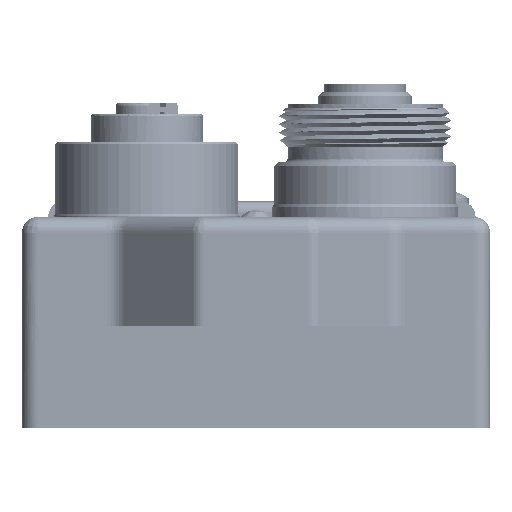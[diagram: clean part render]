
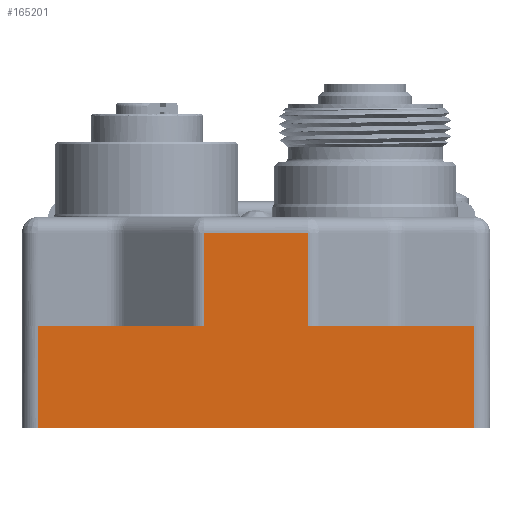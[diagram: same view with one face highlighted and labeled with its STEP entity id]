
A CAD part, left-side view. The second image highlights one B-rep face of the part: STEP entity #165201.
In plain terms, the highlighted planar face has unit normal (-1, 0, 0).
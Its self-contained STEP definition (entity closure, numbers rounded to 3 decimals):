
#4165 = CARTESIAN_POINT ( 'NONE',  ( -96.6, 2.224, 25. ) ) ;
#16935 = B_SPLINE_CURVE_WITH_KNOTS ( 'NONE', 3,
 ( #87503, #241974, #64495, #292724 ),
 .UNSPECIFIED., .F., .F.,
 ( 4, 4 ),
 ( 0., 1. ),
 .UNSPECIFIED. ) ;
#18579 = CARTESIAN_POINT ( 'NONE',  ( -96.6, -20.891, 13. ) ) ;
#20298 = CARTESIAN_POINT ( 'NONE',  ( -96.6, -28., 0. ) ) ;
#20524 = CARTESIAN_POINT ( 'NONE',  ( -96.6, -28., 13. ) ) ;
#20704 = B_SPLINE_CURVE_WITH_KNOTS ( 'NONE', 3,
 ( #196014, #175037, #86284, #20298 ),
 .UNSPECIFIED., .F., .F.,
 ( 4, 4 ),
 ( 0., 1. ),
 .UNSPECIFIED. ) ;
#20964 = ORIENTED_EDGE ( 'NONE', *, *, #72815, .T. ) ;
#38759 = CARTESIAN_POINT ( 'NONE',  ( -96.6, -28., 0. ) ) ;
#49023 = CARTESIAN_POINT ( 'NONE',  ( -96.6, 6.672, 25. ) ) ;
#52046 = CARTESIAN_POINT ( 'NONE',  ( -96.6, 6.672, 13. ) ) ;
#58504 = VERTEX_POINT ( 'NONE', #137217 ) ;
#63722 = CARTESIAN_POINT ( 'NONE',  ( -96.6, -6.672, 13. ) ) ;
#63978 = AXIS2_PLACEMENT_3D ( 'NONE', #71553, #117405, #273823 ) ;
#64495 = CARTESIAN_POINT ( 'NONE',  ( -96.6, 28., 4.333 ) ) ;
#69336 = EDGE_CURVE ( 'NONE', #280600, #167217, #188823, .T. ) ;
#71553 = CARTESIAN_POINT ( 'NONE',  ( -96.6, 0., 28.35 ) ) ;
#72815 = EDGE_CURVE ( 'NONE', #58504, #144024, #20704, .T. ) ;
#74451 = CARTESIAN_POINT ( 'NONE',  ( -96.6, 6.672, 21. ) ) ;
#75386 = B_SPLINE_CURVE_WITH_KNOTS ( 'NONE', 3,
 ( #52046, #257395, #120925, #213597 ),
 .UNSPECIFIED., .F., .F.,
 ( 4, 4 ),
 ( 0., 1. ),
 .UNSPECIFIED. ) ;
#76598 = ORIENTED_EDGE ( 'NONE', *, *, #170723, .T. ) ;
#85568 = CARTESIAN_POINT ( 'NONE',  ( -96.6, -28., 13. ) ) ;
#85745 = CARTESIAN_POINT ( 'NONE',  ( -96.6, -6.672, 17. ) ) ;
#86284 = CARTESIAN_POINT ( 'NONE',  ( -96.6, -9.333, 0. ) ) ;
#86362 = B_SPLINE_CURVE_WITH_KNOTS ( 'NONE', 3,
 ( #63722, #85745, #179403, #201336 ),
 .UNSPECIFIED., .F., .F.,
 ( 4, 4 ),
 ( 0., 1. ),
 .UNSPECIFIED. ) ;
#87500 = CARTESIAN_POINT ( 'NONE',  ( -96.6, -28., 0. ) ) ;
#87503 = CARTESIAN_POINT ( 'NONE',  ( -96.6, 28., 13. ) ) ;
#87531 = CARTESIAN_POINT ( 'NONE',  ( -96.6, -6.672, 13. ) ) ;
#88252 = ORIENTED_EDGE ( 'NONE', *, *, #174652, .F. ) ;
#100261 = EDGE_CURVE ( 'NONE', #226745, #241895, #75386, .T. ) ;
#109512 = ORIENTED_EDGE ( 'NONE', *, *, #213121, .T. ) ;
#115937 = CARTESIAN_POINT ( 'NONE',  ( -96.6, -2.224, 25. ) ) ;
#117405 = DIRECTION ( 'NONE',  ( -1., 0., 0. ) ) ;
#120125 = VERTEX_POINT ( 'NONE', #171766 ) ;
#120925 = CARTESIAN_POINT ( 'NONE',  ( -96.6, 20.891, 13. ) ) ;
#122228 = CARTESIAN_POINT ( 'NONE',  ( -96.6, 6.672, 17. ) ) ;
#125696 = B_SPLINE_CURVE_WITH_KNOTS ( 'NONE', 3,
 ( #211952, #74451, #122228, #168075 ),
 .UNSPECIFIED., .F., .F.,
 ( 4, 4 ),
 ( 0., 1. ),
 .UNSPECIFIED. ) ;
#133096 = CARTESIAN_POINT ( 'NONE',  ( -96.6, -6.672, 13. ) ) ;
#135621 = ORIENTED_EDGE ( 'NONE', *, *, #100261, .T. ) ;
#137217 = CARTESIAN_POINT ( 'NONE',  ( -96.6, 28., 0. ) ) ;
#144024 = VERTEX_POINT ( 'NONE', #38759 ) ;
#156226 = CARTESIAN_POINT ( 'NONE',  ( -96.6, -13.781, 13. ) ) ;
#159288 = PLANE ( 'NONE',  #63978 ) ;
#161674 = ORIENTED_EDGE ( 'NONE', *, *, #199673, .T. ) ;
#165201 = ADVANCED_FACE ( 'NONE', ( #241206 ), #159288, .T. ) ;
#165212 = ORIENTED_EDGE ( 'NONE', *, *, #69336, .T. ) ;
#167217 = VERTEX_POINT ( 'NONE', #133096 ) ;
#168075 = CARTESIAN_POINT ( 'NONE',  ( -96.6, 6.672, 13. ) ) ;
#170723 = EDGE_CURVE ( 'NONE', #144024, #280600, #206353, .T. ) ;
#171766 = CARTESIAN_POINT ( 'NONE',  ( -96.6, 6.672, 25. ) ) ;
#174652 = EDGE_CURVE ( 'NONE', #120125, #286872, #275689, .T. ) ;
#175037 = CARTESIAN_POINT ( 'NONE',  ( -96.6, 9.333, 0. ) ) ;
#176161 = CARTESIAN_POINT ( 'NONE',  ( -96.6, -28., 13. ) ) ;
#179403 = CARTESIAN_POINT ( 'NONE',  ( -96.6, -6.672, 21. ) ) ;
#188823 = B_SPLINE_CURVE_WITH_KNOTS ( 'NONE', 3,
 ( #85568, #18579, #156226, #87531 ),
 .UNSPECIFIED., .F., .F.,
 ( 4, 4 ),
 ( 0., 1. ),
 .UNSPECIFIED. ) ;
#196014 = CARTESIAN_POINT ( 'NONE',  ( -96.6, 28., 0. ) ) ;
#199673 = EDGE_CURVE ( 'NONE', #120125, #226745, #125696, .T. ) ;
#201336 = CARTESIAN_POINT ( 'NONE',  ( -96.6, -6.672, 25. ) ) ;
#206353 = B_SPLINE_CURVE_WITH_KNOTS ( 'NONE', 3,
 ( #87500, #223045, #226021, #20524 ),
 .UNSPECIFIED., .F., .F.,
 ( 4, 4 ),
 ( 0., 1. ),
 .UNSPECIFIED. ) ;
#207617 = CARTESIAN_POINT ( 'NONE',  ( -96.6, -6.672, 25. ) ) ;
#211952 = CARTESIAN_POINT ( 'NONE',  ( -96.6, 6.672, 25. ) ) ;
#213121 = EDGE_CURVE ( 'NONE', #167217, #286872, #86362, .T. ) ;
#213597 = CARTESIAN_POINT ( 'NONE',  ( -96.6, 28., 13. ) ) ;
#220895 = EDGE_LOOP ( 'NONE', ( #161674, #135621, #283714, #20964, #76598, #165212, #109512, #88252 ) ) ;
#223045 = CARTESIAN_POINT ( 'NONE',  ( -96.6, -28., 4.333 ) ) ;
#226021 = CARTESIAN_POINT ( 'NONE',  ( -96.6, -28., 8.667 ) ) ;
#226745 = VERTEX_POINT ( 'NONE', #280148 ) ;
#241206 = FACE_OUTER_BOUND ( 'NONE', #220895, .T. ) ;
#241895 = VERTEX_POINT ( 'NONE', #249105 ) ;
#241974 = CARTESIAN_POINT ( 'NONE',  ( -96.6, 28., 8.667 ) ) ;
#248600 = CARTESIAN_POINT ( 'NONE',  ( -96.6, -6.672, 25. ) ) ;
#249105 = CARTESIAN_POINT ( 'NONE',  ( -96.6, 28., 13. ) ) ;
#257395 = CARTESIAN_POINT ( 'NONE',  ( -96.6, 13.781, 13. ) ) ;
#273823 = DIRECTION ( 'NONE',  ( 0., 0., 1. ) ) ;
#275689 = B_SPLINE_CURVE_WITH_KNOTS ( 'NONE', 3,
 ( #49023, #4165, #115937, #207617 ),
 .UNSPECIFIED., .F., .F.,
 ( 4, 4 ),
 ( 0., 1. ),
 .UNSPECIFIED. ) ;
#279489 = EDGE_CURVE ( 'NONE', #241895, #58504, #16935, .T. ) ;
#280148 = CARTESIAN_POINT ( 'NONE',  ( -96.6, 6.672, 13. ) ) ;
#280600 = VERTEX_POINT ( 'NONE', #176161 ) ;
#283714 = ORIENTED_EDGE ( 'NONE', *, *, #279489, .T. ) ;
#286872 = VERTEX_POINT ( 'NONE', #248600 ) ;
#292724 = CARTESIAN_POINT ( 'NONE',  ( -96.6, 28., 0. ) ) ;
